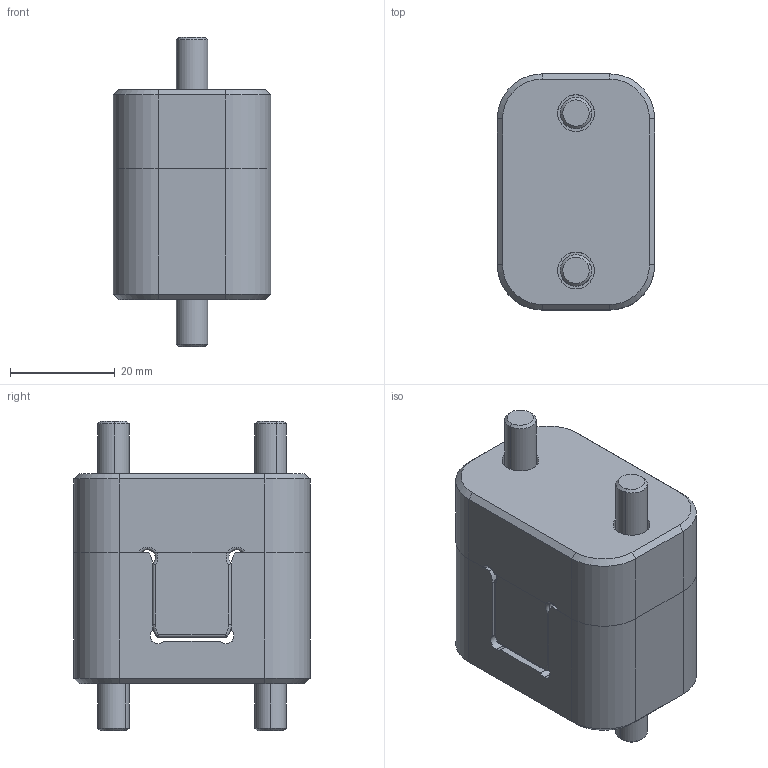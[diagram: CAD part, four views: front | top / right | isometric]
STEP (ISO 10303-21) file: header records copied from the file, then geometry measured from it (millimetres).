
FILE_DESCRIPTION (( 'STEP AP203' ), '1' );
FILE_NAME ('TLM30X45-R.step', '2018-03-16T16:55:32', ( '' ), ( '' ), 'SwSTEP 2.0', 'SolidWorks 2015', '' );
FILE_SCHEMA (( 'CONFIG_CONTROL_DESIGN' ));
Length unit declared in the file: millimetre
Products named in the file (5): M6_X_25; TLM30X45-R; TLM30X45-R MALE; M6_X_18; TLM30X45-R FEMALE
Assembly tree (6 placements, depth 2):
  TLM30X45-R
    TLM30X45-R MALE
    TLM30X45-R FEMALE
    M6_X_18  x2
    M6_X_25  x2
Bounding box: 30 x 45 x 59 mm (x, y, z)
Volume: 49388.1 mm3; surface area: 17504.3 mm2
Topology: 6 solids, 6 shells, 460 faces, 1004 edges, 654 vertices
Faces by surface type: cylinder 235, plane 169, cone 26, torus 24, bspline 6
Entity records: 12603 total; most frequent: CARTESIAN_POINT 2281, DIRECTION 2234, ORIENTED_EDGE 1856, AXIS2_PLACEMENT_3D 931, EDGE_CURVE 928, VERTEX_POINT 606, EDGE_LOOP 526, CIRCLE 504
